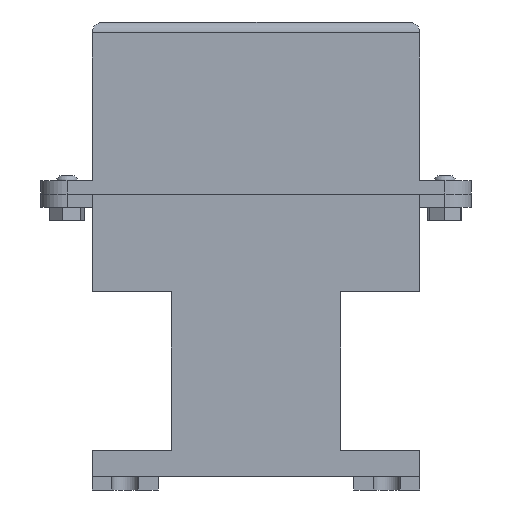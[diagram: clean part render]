
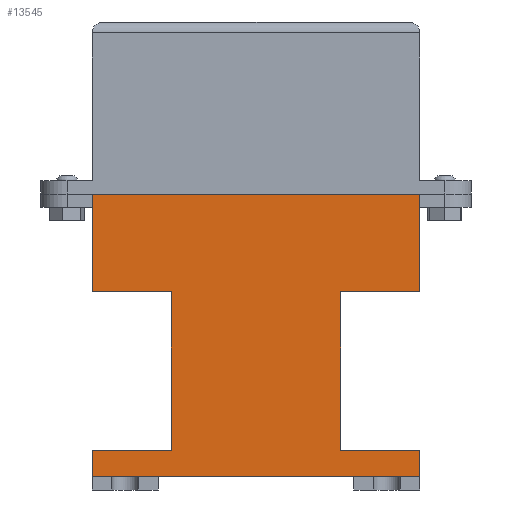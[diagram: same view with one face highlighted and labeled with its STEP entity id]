
A CAD part, left-side view. The second image highlights one B-rep face of the part: STEP entity #13545.
In plain terms, the highlighted planar face has unit normal (-1, 0, 0).
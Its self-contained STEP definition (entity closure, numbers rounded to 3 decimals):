
#1273=FACE_OUTER_BOUND('',#2041,.T.);
#2041=EDGE_LOOP('',(#11387,#11388,#11389,#11390,#11391,#11392,#11393,#11394,
#11395,#11396,#11397,#11398));
#3274=LINE('',#22588,#4774);
#3289=LINE('',#22624,#4789);
#3295=LINE('',#22636,#4795);
#3305=LINE('',#22652,#4805);
#3310=LINE('',#22663,#4810);
#3313=LINE('',#22668,#4813);
#3347=LINE('',#22751,#4847);
#3348=LINE('',#22754,#4848);
#3350=LINE('',#22757,#4850);
#3351=LINE('',#22759,#4851);
#3353=LINE('',#22763,#4853);
#3354=LINE('',#22765,#4854);
#4774=VECTOR('',#16277,10.);
#4789=VECTOR('',#16302,10.);
#4795=VECTOR('',#16312,10.);
#4805=VECTOR('',#16324,10.);
#4810=VECTOR('',#16333,10.);
#4813=VECTOR('',#16338,10.);
#4847=VECTOR('',#16434,10.);
#4848=VECTOR('',#16437,10.);
#4850=VECTOR('',#16441,10.);
#4851=VECTOR('',#16444,10.);
#4853=VECTOR('',#16448,10.);
#4854=VECTOR('',#16451,10.);
#6179=VERTEX_POINT('',#22585);
#6180=VERTEX_POINT('',#22587);
#6195=VERTEX_POINT('',#22621);
#6196=VERTEX_POINT('',#22623);
#6199=VERTEX_POINT('',#22633);
#6200=VERTEX_POINT('',#22635);
#6208=VERTEX_POINT('',#22660);
#6209=VERTEX_POINT('',#22662);
#6210=VERTEX_POINT('',#22666);
#6228=VERTEX_POINT('',#22749);
#6229=VERTEX_POINT('',#22753);
#6230=VERTEX_POINT('',#22761);
#7933=EDGE_CURVE('',#6180,#6179,#3274,.T.);
#7951=EDGE_CURVE('',#6196,#6195,#3289,.T.);
#7957=EDGE_CURVE('',#6200,#6199,#3295,.T.);
#7967=EDGE_CURVE('',#6180,#6199,#3305,.T.);
#7972=EDGE_CURVE('',#6208,#6209,#3310,.T.);
#7975=EDGE_CURVE('',#6208,#6210,#3313,.T.);
#8015=EDGE_CURVE('',#6179,#6228,#3347,.T.);
#8016=EDGE_CURVE('',#6229,#6196,#3348,.T.);
#8018=EDGE_CURVE('',#6228,#6229,#3350,.T.);
#8019=EDGE_CURVE('',#6210,#6200,#3351,.T.);
#8021=EDGE_CURVE('',#6195,#6230,#3353,.T.);
#8022=EDGE_CURVE('',#6209,#6230,#3354,.T.);
#11387=ORIENTED_EDGE('',*,*,#8018,.T.);
#11388=ORIENTED_EDGE('',*,*,#8016,.T.);
#11389=ORIENTED_EDGE('',*,*,#7951,.T.);
#11390=ORIENTED_EDGE('',*,*,#8021,.T.);
#11391=ORIENTED_EDGE('',*,*,#8022,.F.);
#11392=ORIENTED_EDGE('',*,*,#7972,.F.);
#11393=ORIENTED_EDGE('',*,*,#7975,.T.);
#11394=ORIENTED_EDGE('',*,*,#8019,.T.);
#11395=ORIENTED_EDGE('',*,*,#7957,.T.);
#11396=ORIENTED_EDGE('',*,*,#7967,.F.);
#11397=ORIENTED_EDGE('',*,*,#7933,.T.);
#11398=ORIENTED_EDGE('',*,*,#8015,.T.);
#12781=PLANE('',#14222);
#13545=ADVANCED_FACE('',(#1273),#12781,.T.);
#14222=AXIS2_PLACEMENT_3D('',#22764,#16449,#16450);
#16277=DIRECTION('',(0.,1.,0.));
#16302=DIRECTION('',(0.,1.,0.));
#16312=DIRECTION('',(0.,-1.,0.));
#16324=DIRECTION('',(0.,0.,-1.));
#16333=DIRECTION('',(0.,0.,-1.));
#16338=DIRECTION('',(0.,1.,0.));
#16434=DIRECTION('',(0.,0.,-1.));
#16437=DIRECTION('',(0.,0.,-1.));
#16441=DIRECTION('',(0.,-1.,0.));
#16444=DIRECTION('',(0.,0.,1.));
#16448=DIRECTION('',(0.,0.,-1.));
#16449=DIRECTION('center_axis',(-1.,0.,0.));
#16450=DIRECTION('ref_axis',(0.,1.,0.));
#16451=DIRECTION('',(0.,1.,0.));
#22585=CARTESIAN_POINT('',(-10.,124.,0.));
#22587=CARTESIAN_POINT('',(-10.,0.,0.));
#22588=CARTESIAN_POINT('',(-10.,0.,0.));
#22621=CARTESIAN_POINT('',(-10.,124.,-97.));
#22623=CARTESIAN_POINT('',(-10.,94.,-97.));
#22624=CARTESIAN_POINT('',(-10.,47.,-97.));
#22633=CARTESIAN_POINT('',(-10.,0.,-37.));
#22635=CARTESIAN_POINT('',(-10.,30.,-37.));
#22636=CARTESIAN_POINT('',(-10.,15.,-37.));
#22652=CARTESIAN_POINT('',(-10.,0.,0.));
#22660=CARTESIAN_POINT('',(-10.,0.,-97.));
#22662=CARTESIAN_POINT('',(-10.,0.,-107.));
#22663=CARTESIAN_POINT('',(-10.,0.,0.));
#22666=CARTESIAN_POINT('',(-10.,30.,-97.));
#22668=CARTESIAN_POINT('',(-10.,0.,-97.));
#22749=CARTESIAN_POINT('',(-10.,124.,-37.));
#22751=CARTESIAN_POINT('',(-10.,124.,0.));
#22753=CARTESIAN_POINT('',(-10.,94.,-37.));
#22754=CARTESIAN_POINT('',(-10.,94.,-18.5));
#22757=CARTESIAN_POINT('',(-10.,62.,-37.));
#22759=CARTESIAN_POINT('',(-10.,30.,-48.5));
#22761=CARTESIAN_POINT('',(-10.,124.,-107.));
#22763=CARTESIAN_POINT('',(-10.,124.,0.));
#22764=CARTESIAN_POINT('Origin',(-10.,0.,0.));
#22765=CARTESIAN_POINT('',(-10.,0.,-107.));
